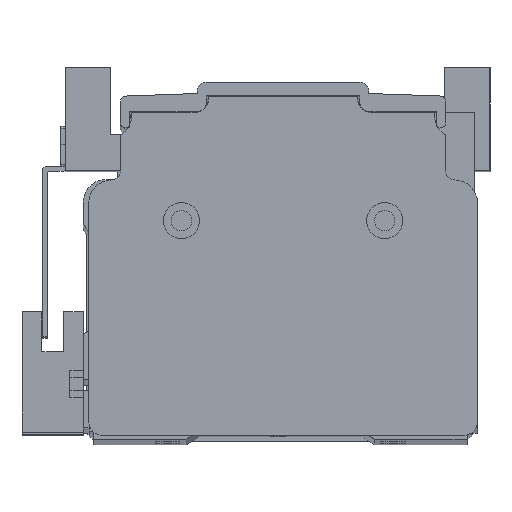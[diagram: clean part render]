
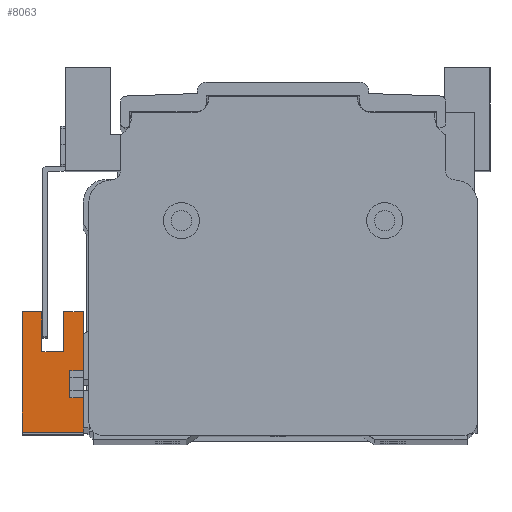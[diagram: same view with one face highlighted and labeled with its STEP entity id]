
A CAD part, top view. The second image highlights one B-rep face of the part: STEP entity #8063.
In plain terms, the highlighted planar face has unit normal (0, 0, 1).
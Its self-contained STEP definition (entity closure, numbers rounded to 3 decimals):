
#69 = VECTOR ( 'NONE', #5784, 1000. ) ;
#154 = EDGE_CURVE ( 'NONE', #868, #5161, #7017, .T. ) ;
#180 = CARTESIAN_POINT ( 'NONE',  ( -2.4, 4.5, 6.5 ) ) ;
#259 = ORIENTED_EDGE ( 'NONE', *, *, #14974, .F. ) ;
#344 = CARTESIAN_POINT ( 'NONE',  ( 6.8, 0.3, 6.5 ) ) ;
#470 = VECTOR ( 'NONE', #4430, 1000. ) ;
#530 = ORIENTED_EDGE ( 'NONE', *, *, #13313, .T. ) ;
#613 = LINE ( 'NONE', #17672, #69 ) ;
#686 = DIRECTION ( 'NONE',  ( 0., 0., 1. ) ) ;
#868 = VERTEX_POINT ( 'NONE', #3019 ) ;
#970 = DIRECTION ( 'NONE',  ( -1., 0., 0. ) ) ;
#1267 = DIRECTION ( 'NONE',  ( 1., 0., 0. ) ) ;
#1310 = LINE ( 'NONE', #19542, #5877 ) ;
#1664 = DIRECTION ( 'NONE',  ( 0., -1., 0. ) ) ;
#2162 = DIRECTION ( 'NONE',  ( 0., -1., 0. ) ) ;
#2575 = LINE ( 'NONE', #6045, #19046 ) ;
#2641 = CARTESIAN_POINT ( 'NONE',  ( 0., 13.3, 6.5 ) ) ;
#3013 = CARTESIAN_POINT ( 'NONE',  ( 3.8, -5.7, 6.5 ) ) ;
#3019 = CARTESIAN_POINT ( 'NONE',  ( 2.4, 13.3, 6.5 ) ) ;
#3327 = VERTEX_POINT ( 'NONE', #6580 ) ;
#3561 = VECTOR ( 'NONE', #13454, 1000. ) ;
#3587 = VERTEX_POINT ( 'NONE', #17428 ) ;
#3659 = ORIENTED_EDGE ( 'NONE', *, *, #6336, .F. ) ;
#3851 = VERTEX_POINT ( 'NONE', #19959 ) ;
#4380 = VERTEX_POINT ( 'NONE', #7886 ) ;
#4430 = DIRECTION ( 'NONE',  ( 1., 0., 0. ) ) ;
#5025 = LINE ( 'NONE', #7850, #470 ) ;
#5161 = VERTEX_POINT ( 'NONE', #15929 ) ;
#5501 = VECTOR ( 'NONE', #970, 1000. ) ;
#5567 = EDGE_CURVE ( 'NONE', #5991, #3587, #18289, .T. ) ;
#5638 = ORIENTED_EDGE ( 'NONE', *, *, #15674, .F. ) ;
#5784 = DIRECTION ( 'NONE',  ( 1., 0., 0. ) ) ;
#5877 = VECTOR ( 'NONE', #21256, 1000. ) ;
#5991 = VERTEX_POINT ( 'NONE', #6655 ) ;
#6045 = CARTESIAN_POINT ( 'NONE',  ( -2.4, 0., 6.5 ) ) ;
#6336 = EDGE_CURVE ( 'NONE', #10782, #17679, #2575, .T. ) ;
#6580 = CARTESIAN_POINT ( 'NONE',  ( -6.8, 13.3, 6.5 ) ) ;
#6621 = ORIENTED_EDGE ( 'NONE', *, *, #7955, .T. ) ;
#6655 = CARTESIAN_POINT ( 'NONE',  ( 3.8, 0.3, 6.5 ) ) ;
#6855 = ORIENTED_EDGE ( 'NONE', *, *, #8366, .T. ) ;
#7017 = LINE ( 'NONE', #2641, #3561 ) ;
#7347 = VECTOR ( 'NONE', #17488, 1000. ) ;
#7775 = VECTOR ( 'NONE', #13464, 1000. ) ;
#7850 = CARTESIAN_POINT ( 'NONE',  ( 0., 13.3, 6.5 ) ) ;
#7869 = LINE ( 'NONE', #12407, #7347 ) ;
#7886 = CARTESIAN_POINT ( 'NONE',  ( 6.8, -13.3, 6.5 ) ) ;
#7955 = EDGE_CURVE ( 'NONE', #3327, #3851, #20305, .T. ) ;
#8063 = ADVANCED_FACE ( 'NONE', ( #9129 ), #21100, .T. ) ;
#8366 = EDGE_CURVE ( 'NONE', #868, #16783, #21351, .T. ) ;
#8480 = VECTOR ( 'NONE', #1267, 1000. ) ;
#8911 = ORIENTED_EDGE ( 'NONE', *, *, #154, .F. ) ;
#9031 = LINE ( 'NONE', #3013, #8480 ) ;
#9129 = FACE_OUTER_BOUND ( 'NONE', #12796, .T. ) ;
#9263 = VECTOR ( 'NONE', #1664, 1000. ) ;
#10507 = EDGE_CURVE ( 'NONE', #3327, #10782, #5025, .T. ) ;
#10567 = LINE ( 'NONE', #11249, #5501 ) ;
#10618 = EDGE_CURVE ( 'NONE', #16639, #4380, #20994, .T. ) ;
#10782 = VERTEX_POINT ( 'NONE', #13843 ) ;
#11249 = CARTESIAN_POINT ( 'NONE',  ( 3.8, 0.3, 6.5 ) ) ;
#11301 = VECTOR ( 'NONE', #2162, 1000. ) ;
#11376 = CARTESIAN_POINT ( 'NONE',  ( 6.8, -5.7, 6.5 ) ) ;
#11598 = CARTESIAN_POINT ( 'NONE',  ( 6.8, 0., 6.5 ) ) ;
#11777 = CARTESIAN_POINT ( 'NONE',  ( 2.4, 0., 6.5 ) ) ;
#11908 = CARTESIAN_POINT ( 'NONE',  ( 3.8, 0.3, 6.5 ) ) ;
#12156 = ORIENTED_EDGE ( 'NONE', *, *, #12604, .F. ) ;
#12386 = CARTESIAN_POINT ( 'NONE',  ( -6.8, 0., 6.5 ) ) ;
#12407 = CARTESIAN_POINT ( 'NONE',  ( 0., -13.3, 6.5 ) ) ;
#12604 = EDGE_CURVE ( 'NONE', #17679, #16783, #613, .T. ) ;
#12668 = DIRECTION ( 'NONE',  ( 1., 0., 0. ) ) ;
#12796 = EDGE_LOOP ( 'NONE', ( #5638, #17491, #14021, #259, #8911, #6855, #12156, #3659, #20655, #6621, #530, #15430 ) ) ;
#13313 = EDGE_CURVE ( 'NONE', #3851, #4380, #7869, .T. ) ;
#13454 = DIRECTION ( 'NONE',  ( 1., 0., 0. ) ) ;
#13464 = DIRECTION ( 'NONE',  ( 0., -1., 0. ) ) ;
#13843 = CARTESIAN_POINT ( 'NONE',  ( -2.4, 13.3, 6.5 ) ) ;
#14021 = ORIENTED_EDGE ( 'NONE', *, *, #19797, .F. ) ;
#14974 = EDGE_CURVE ( 'NONE', #5161, #20626, #1310, .T. ) ;
#15430 = ORIENTED_EDGE ( 'NONE', *, *, #10618, .F. ) ;
#15674 = EDGE_CURVE ( 'NONE', #3587, #16639, #9031, .T. ) ;
#15929 = CARTESIAN_POINT ( 'NONE',  ( 6.8, 13.3, 6.5 ) ) ;
#16494 = VECTOR ( 'NONE', #21736, 1000. ) ;
#16639 = VERTEX_POINT ( 'NONE', #11376 ) ;
#16783 = VERTEX_POINT ( 'NONE', #20275 ) ;
#17391 = AXIS2_PLACEMENT_3D ( 'NONE', #19398, #686, #12668 ) ;
#17428 = CARTESIAN_POINT ( 'NONE',  ( 3.8, -5.7, 6.5 ) ) ;
#17488 = DIRECTION ( 'NONE',  ( 1., 0., 0. ) ) ;
#17491 = ORIENTED_EDGE ( 'NONE', *, *, #5567, .F. ) ;
#17672 = CARTESIAN_POINT ( 'NONE',  ( 0., 4.5, 6.5 ) ) ;
#17679 = VERTEX_POINT ( 'NONE', #180 ) ;
#17869 = DIRECTION ( 'NONE',  ( 0., -1., 0. ) ) ;
#18289 = LINE ( 'NONE', #11908, #9263 ) ;
#19046 = VECTOR ( 'NONE', #17869, 1000. ) ;
#19398 = CARTESIAN_POINT ( 'NONE',  ( 0., 0., 6.5 ) ) ;
#19542 = CARTESIAN_POINT ( 'NONE',  ( 6.8, 0., 6.5 ) ) ;
#19797 = EDGE_CURVE ( 'NONE', #20626, #5991, #10567, .T. ) ;
#19959 = CARTESIAN_POINT ( 'NONE',  ( -6.8, -13.3, 6.5 ) ) ;
#20275 = CARTESIAN_POINT ( 'NONE',  ( 2.4, 4.5, 6.5 ) ) ;
#20305 = LINE ( 'NONE', #12386, #11301 ) ;
#20626 = VERTEX_POINT ( 'NONE', #344 ) ;
#20655 = ORIENTED_EDGE ( 'NONE', *, *, #10507, .F. ) ;
#20994 = LINE ( 'NONE', #11598, #16494 ) ;
#21100 = PLANE ( 'NONE',  #17391 ) ;
#21256 = DIRECTION ( 'NONE',  ( 0., -1., 0. ) ) ;
#21351 = LINE ( 'NONE', #11777, #7775 ) ;
#21736 = DIRECTION ( 'NONE',  ( 0., -1., 0. ) ) ;
